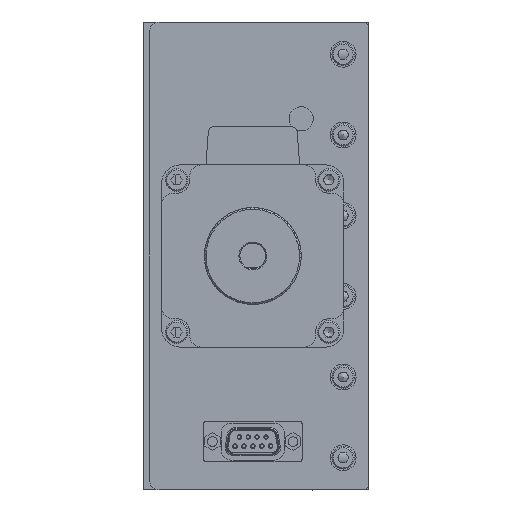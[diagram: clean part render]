
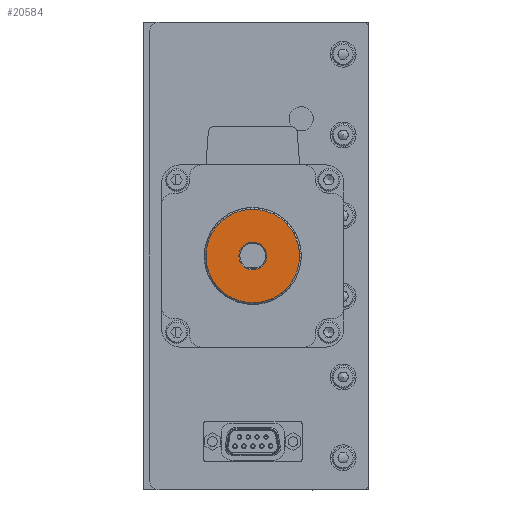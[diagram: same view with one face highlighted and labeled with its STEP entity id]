
A CAD part, left-side view. The second image highlights one B-rep face of the part: STEP entity #20584.
In plain terms, the highlighted planar face has unit normal (-1, 0, 0).
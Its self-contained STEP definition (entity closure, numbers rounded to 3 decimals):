
#2806 = CARTESIAN_POINT ( 'NONE',  ( -418.246, 5.16, 0.71 ) ) ;
#2808 = CARTESIAN_POINT ( 'NONE',  ( -418.246, 15.348, 0.21 ) ) ;
#4373 = CIRCLE ( 'NONE', #30641, 4.3 ) ;
#4374 = CIRCLE ( 'NONE', #30639, 14.5 ) ;
#9155 = ORIENTED_EDGE ( 'NONE', *, *, #19858, .T. ) ;
#9157 = ORIENTED_EDGE ( 'NONE', *, *, #19860, .T. ) ;
#9316 = VERTEX_POINT ( 'NONE', #2808 ) ;
#9320 = VERTEX_POINT ( 'NONE', #2806 ) ;
#12542 = CARTESIAN_POINT ( 'NONE',  ( -418.246, 19.643, 0. ) ) ;
#12544 = PLANE ( 'NONE',  #38104 ) ;
#12546 = DIRECTION ( 'NONE',  ( 1., 0., 0. ) ) ;
#12547 = DIRECTION ( 'NONE',  ( 0., -0.999, 0.049 ) ) ;
#19858 = EDGE_CURVE ( 'NONE', #9320, #9320, #4374, .T. ) ;
#19860 = EDGE_CURVE ( 'NONE', #9316, #9316, #4373, .T. ) ;
#20584 = ADVANCED_FACE ( 'NONE', ( #41639, #41643 ), #12544, .F. ) ;
#30639 = AXIS2_PLACEMENT_3D ( 'NONE', #36857, #36858, #36859 ) ;
#30641 = AXIS2_PLACEMENT_3D ( 'NONE', #36863, #36864, #36865 ) ;
#31844 = EDGE_LOOP ( 'NONE', ( #9155 ) ) ;
#31850 = EDGE_LOOP ( 'NONE', ( #9157 ) ) ;
#36857 = CARTESIAN_POINT ( 'NONE',  ( -418.246, 19.643, 0. ) ) ;
#36858 = DIRECTION ( 'NONE',  ( -1., 0., 0. ) ) ;
#36859 = DIRECTION ( 'NONE',  ( 0., -0.999, 0.049 ) ) ;
#36863 = CARTESIAN_POINT ( 'NONE',  ( -418.246, 19.643, 0. ) ) ;
#36864 = DIRECTION ( 'NONE',  ( 1., 0., 0. ) ) ;
#36865 = DIRECTION ( 'NONE',  ( 0., -0.999, 0.049 ) ) ;
#38104 = AXIS2_PLACEMENT_3D ( 'NONE', #12542, #12546, #12547 ) ;
#41639 = FACE_BOUND ( 'NONE', #31850, .T. ) ;
#41643 = FACE_OUTER_BOUND ( 'NONE', #31844, .T. ) ;
